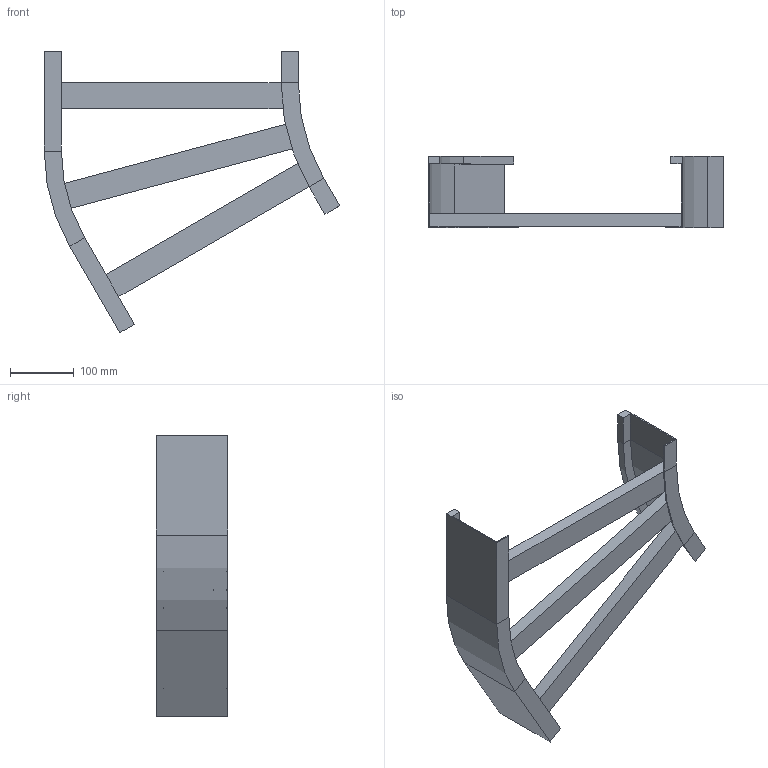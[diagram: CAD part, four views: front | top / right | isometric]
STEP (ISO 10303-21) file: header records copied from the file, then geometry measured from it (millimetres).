
FILE_DESCRIPTION (( 'STEP AP214' ), '1' );
FILE_NAME ('B2_12B3J400.step', '2025-02-21T15:09:31', ( '' ), ( '' ), 'SwSTEP 2.0', 'SolidWorks 2023', '' );
FILE_SCHEMA (( 'AUTOMOTIVE_DESIGN' ));
Length unit declared in the file: millimetre
Products named in the file (5): B2_12B3J400; TRAVERSINO_L409; B2_LONGH.INTERNO 30°_H112.5_R300; TRAVERSINO_400; B2_LONGH.ESTERNO 30°_H112.5_R300+400
Assembly tree (5 placements, depth 2):
  B2_12B3J400
    B2_LONGH.INTERNO 30°_H112.5_R300
    B2_LONGH.ESTERNO 30°_H112.5_R300+400
    TRAVERSINO_400  x2
    TRAVERSINO_L409
Bounding box: 465.19 x 112.5 x 443.3 mm (x, y, z)
Volume: 1313028.2 mm3; surface area: 378618.3 mm2
Topology: 5 solids, 5 shells, 70 faces, 148 edges, 88 vertices
Faces by surface type: plane 62, cylinder 8
Entity records: 1822 total; most frequent: DIRECTION 296, CARTESIAN_POINT 288, ORIENTED_EDGE 272, EDGE_CURVE 136, LINE 120, VECTOR 120, AXIS2_PLACEMENT_3D 88, VERTEX_POINT 80
